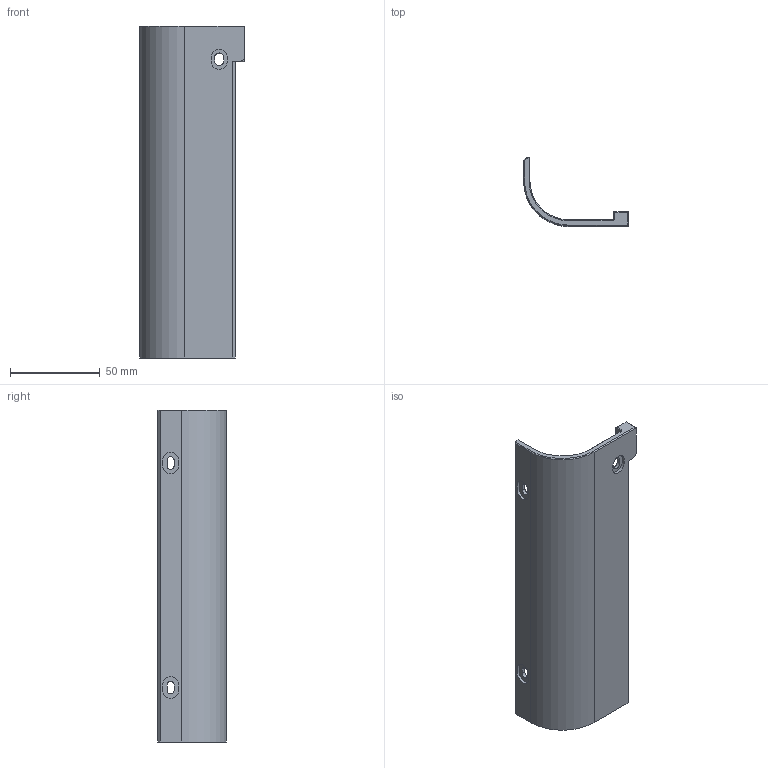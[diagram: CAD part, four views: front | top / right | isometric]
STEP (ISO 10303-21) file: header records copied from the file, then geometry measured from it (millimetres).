
FILE_DESCRIPTION (( 'STEP AP203' ), '1' );
FILE_NAME ('誘啣D2.STEP', '2024-01-02T07:34:09', ( '' ), ( '' ), 'SwSTEP 2.0', 'SolidWorks 2014', '' );
FILE_SCHEMA (( 'CONFIG_CONTROL_DESIGN' ));
Length unit declared in the file: millimetre
Products named in the file (1): 誘啣D2
Bounding box: 58.2 x 38.2 x 184.75 mm (x, y, z)
Volume: 48931.3 mm3; surface area: 32020.8 mm2
Topology: 1 solids, 1 shells, 122 faces, 304 edges, 194 vertices
Faces by surface type: plane 84, cylinder 26, bspline 7, cone 5
Entity records: 4453 total; most frequent: CARTESIAN_POINT 1464, ORIENTED_EDGE 608, DIRECTION 575, EDGE_CURVE 304, VECTOR 233, LINE 233, VERTEX_POINT 194, AXIS2_PLACEMENT_3D 171
